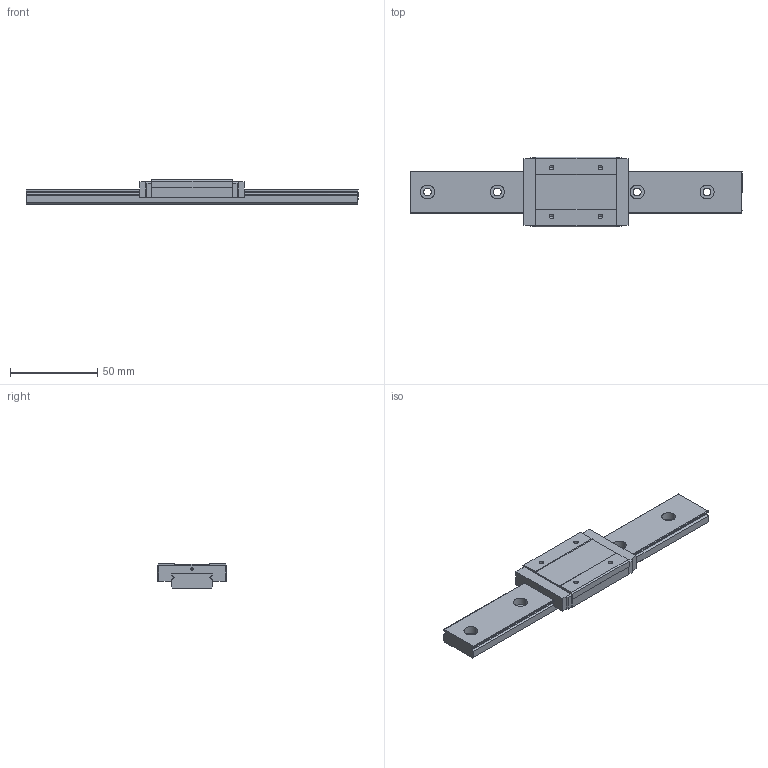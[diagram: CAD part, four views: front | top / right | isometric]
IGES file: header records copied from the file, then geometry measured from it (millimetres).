
Global section: file name: No Iges File Name specified; native system: AutoDesk Inventor R11.0; preprocessor: AutoDesk Inventor Iges Exporter R11.0; author: No Author specified; organization: No Organization specified; date: 20150221.131854; units: millimetre
Bounding box: 190 x 40 x 14 mm (x, y, z)
Surface area: 21389.2 mm2 (no closed solid volume)
Topology: 0 solids, 0 shells, 117 faces, 760 edges, 752 vertices
Faces by surface type: bspline 117
